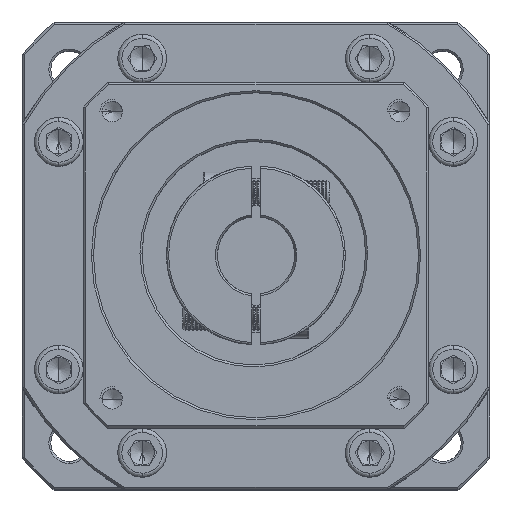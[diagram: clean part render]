
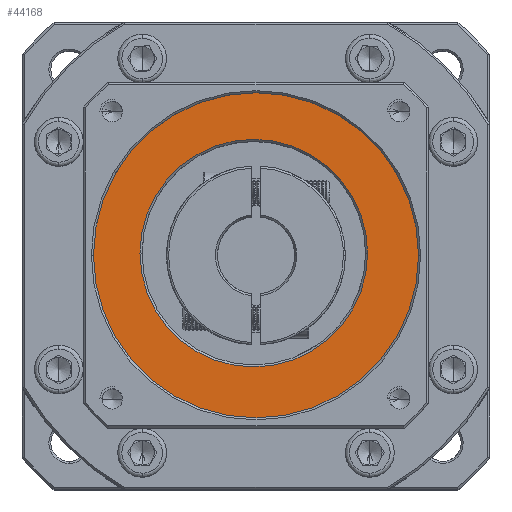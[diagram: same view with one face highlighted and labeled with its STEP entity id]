
A CAD part, top view. The second image highlights one B-rep face of the part: STEP entity #44168.
In plain terms, the highlighted planar face has unit normal (0, 0, 1).
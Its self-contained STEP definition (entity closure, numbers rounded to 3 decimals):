
#1364 = EDGE_CURVE ( 'NONE', #38981, #89381, #57597, .T. ) ;
#3048 = AXIS2_PLACEMENT_3D ( 'NONE', #75804, #22448, #84803 ) ;
#8812 = DIRECTION ( 'NONE',  ( 0., 0., 1. ) ) ;
#15011 = DIRECTION ( 'NONE',  ( 0., 0., 1. ) ) ;
#17185 = AXIS2_PLACEMENT_3D ( 'NONE', #17300, #79630, #26269 ) ;
#17300 = CARTESIAN_POINT ( 'NONE',  ( -84.026, 37.608, 25.809 ) ) ;
#22448 = DIRECTION ( 'NONE',  ( 0., 0., -1. ) ) ;
#22689 = DIRECTION ( 'NONE',  ( 0., 0., -1. ) ) ;
#23237 = CARTESIAN_POINT ( 'NONE',  ( -124.026, 37.608, 25.809 ) ) ;
#26269 = DIRECTION ( 'NONE',  ( 1., 0., 0. ) ) ;
#32151 = VERTEX_POINT ( 'NONE', #23237 ) ;
#32338 = CIRCLE ( 'NONE', #87101, 40. ) ;
#32627 = EDGE_CURVE ( 'NONE', #89381, #38981, #114746, .T. ) ;
#38981 = VERTEX_POINT ( 'NONE', #59343 ) ;
#44168 = ADVANCED_FACE ( 'NONE', ( #62509, #65293 ), #61004, .T. ) ;
#52715 = CARTESIAN_POINT ( 'NONE',  ( -56.567, 38.142, 25.809 ) ) ;
#57597 = CIRCLE ( 'NONE', #3048, 28. ) ;
#59040 = AXIS2_PLACEMENT_3D ( 'NONE', #76074, #22689, #85053 ) ;
#59343 = CARTESIAN_POINT ( 'NONE',  ( -112.567, 38.142, 25.809 ) ) ;
#59960 = AXIS2_PLACEMENT_3D ( 'NONE', #62247, #8812, #71196 ) ;
#61004 = PLANE ( 'NONE',  #17185 ) ;
#62247 = CARTESIAN_POINT ( 'NONE',  ( -84.026, 37.608, 25.809 ) ) ;
#62509 = FACE_OUTER_BOUND ( 'NONE', #92804, .T. ) ;
#65293 = FACE_BOUND ( 'NONE', #87017, .T. ) ;
#66433 = ORIENTED_EDGE ( 'NONE', *, *, #78488, .T. ) ;
#68358 = CARTESIAN_POINT ( 'NONE',  ( -84.026, 37.608, 25.809 ) ) ;
#70532 = EDGE_CURVE ( 'NONE', #88046, #32151, #76446, .T. ) ;
#71196 = DIRECTION ( 'NONE',  ( 1., 0., 0. ) ) ;
#75551 = CARTESIAN_POINT ( 'NONE',  ( -44.026, 37.608, 25.809 ) ) ;
#75804 = CARTESIAN_POINT ( 'NONE',  ( -84.567, 38.142, 25.809 ) ) ;
#76074 = CARTESIAN_POINT ( 'NONE',  ( -84.567, 38.142, 25.809 ) ) ;
#76446 = CIRCLE ( 'NONE', #59960, 40. ) ;
#77357 = DIRECTION ( 'NONE',  ( 1., 0., 0. ) ) ;
#78488 = EDGE_CURVE ( 'NONE', #32151, #88046, #32338, .T. ) ;
#79630 = DIRECTION ( 'NONE',  ( 0., 0., 1. ) ) ;
#84803 = DIRECTION ( 'NONE',  ( 1., 0., 0. ) ) ;
#85053 = DIRECTION ( 'NONE',  ( 1., 0., 0. ) ) ;
#86916 = ORIENTED_EDGE ( 'NONE', *, *, #32627, .T. ) ;
#87017 = EDGE_LOOP ( 'NONE', ( #86916, #114920 ) ) ;
#87101 = AXIS2_PLACEMENT_3D ( 'NONE', #68358, #15011, #77357 ) ;
#88046 = VERTEX_POINT ( 'NONE', #75551 ) ;
#89381 = VERTEX_POINT ( 'NONE', #52715 ) ;
#92804 = EDGE_LOOP ( 'NONE', ( #111297, #66433 ) ) ;
#111297 = ORIENTED_EDGE ( 'NONE', *, *, #70532, .T. ) ;
#114746 = CIRCLE ( 'NONE', #59040, 28. ) ;
#114920 = ORIENTED_EDGE ( 'NONE', *, *, #1364, .T. ) ;
